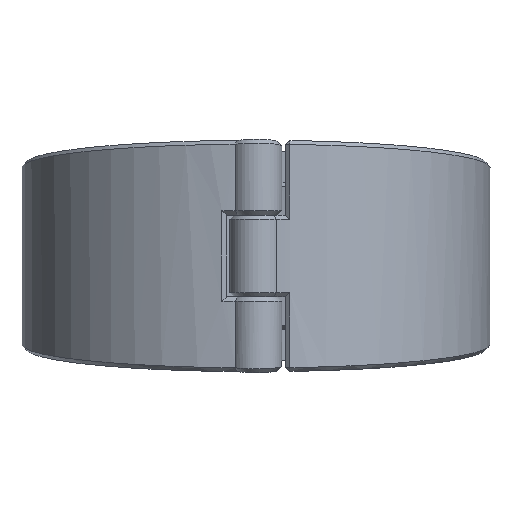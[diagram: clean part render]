
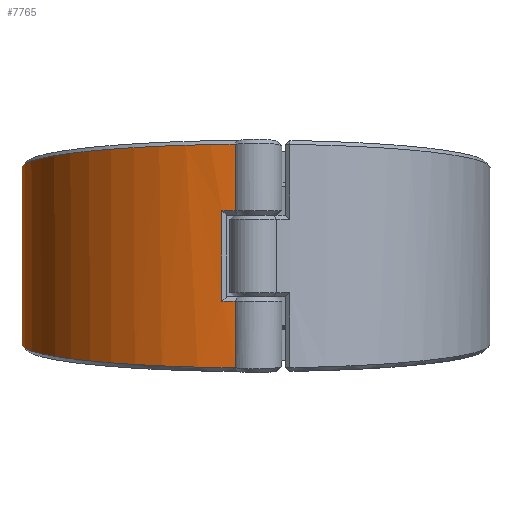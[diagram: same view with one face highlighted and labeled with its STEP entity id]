
A CAD part, front view. The second image highlights one B-rep face of the part: STEP entity #7765.
In plain terms, the highlighted cylindrical face has radius 110 mm (diameter 220 mm), a partial arc.
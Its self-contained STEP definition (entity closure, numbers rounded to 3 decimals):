
#263=CYLINDRICAL_SURFACE('',#8320,110.);
#584=FACE_OUTER_BOUND('',#1104,.T.);
#1104=EDGE_LOOP('',(#5280,#5281,#5282,#5283,#5284,#5285,#5286,#5287,#5288,
#5289,#5290,#5291));
#1644=B_SPLINE_CURVE_WITH_KNOTS('',3,(#11843,#11844,#11845,#11846),
 .UNSPECIFIED.,.F.,.F.,(4,4),(-0.001,0.),.UNSPECIFIED.);
#1645=B_SPLINE_CURVE_WITH_KNOTS('',3,(#11848,#11849,#11850,#11851),
 .UNSPECIFIED.,.F.,.F.,(4,4),(-3.053,-3.053),
 .UNSPECIFIED.);
#1646=B_SPLINE_CURVE_WITH_KNOTS('',3,(#11853,#11854,#11855,#11856,#11857,
#11858,#11859,#11860,#11861,#11862),.UNSPECIFIED.,.F.,.F.,(4,1,1,1,1,1,
1,4),(0.317,0.657,1.057,1.458,
1.859,2.26,2.661,3.053),
 .UNSPECIFIED.);
#1647=B_SPLINE_CURVE_WITH_KNOTS('',3,(#11866,#11867,#11868,#11869,#11870,
#11871,#11872,#11873,#11874,#11875),.UNSPECIFIED.,.F.,.F.,(4,1,1,1,1,1,
1,4),(-3.053,-2.661,-2.26,-1.859,
-1.458,-1.057,-0.657,-0.317),
 .UNSPECIFIED.);
#1648=B_SPLINE_CURVE_WITH_KNOTS('',3,(#11877,#11878,#11879,#11880),
 .UNSPECIFIED.,.F.,.F.,(4,4),(3.053,3.053),
 .UNSPECIFIED.);
#1649=B_SPLINE_CURVE_WITH_KNOTS('',3,(#11882,#11883,#11884,#11885),
 .UNSPECIFIED.,.F.,.F.,(4,4),(-0.354,-0.353),
 .UNSPECIFIED.);
#1921=LINE('',#11777,#2291);
#1927=LINE('',#11841,#2297);
#1928=LINE('',#11864,#2298);
#1929=LINE('',#11886,#2299);
#2291=VECTOR('',#9336,10.);
#2297=VECTOR('',#9382,10.);
#2298=VECTOR('',#9383,10.);
#2299=VECTOR('',#9384,10.);
#2666=CIRCLE('',#8310,110.);
#2669=CIRCLE('',#8315,110.);
#3229=VERTEX_POINT('',#11771);
#3230=VERTEX_POINT('',#11776);
#3236=VERTEX_POINT('',#11797);
#3239=VERTEX_POINT('',#11818);
#3243=VERTEX_POINT('',#11840);
#3244=VERTEX_POINT('',#11842);
#3245=VERTEX_POINT('',#11847);
#3246=VERTEX_POINT('',#11852);
#3247=VERTEX_POINT('',#11863);
#3248=VERTEX_POINT('',#11865);
#3249=VERTEX_POINT('',#11876);
#3250=VERTEX_POINT('',#11881);
#3984=EDGE_CURVE('',#3229,#3230,#1921,.T.);
#3997=EDGE_CURVE('',#3236,#3229,#2666,.T.);
#4002=EDGE_CURVE('',#3230,#3239,#2669,.T.);
#4008=EDGE_CURVE('',#3243,#3236,#1927,.T.);
#4009=EDGE_CURVE('',#3244,#3243,#1644,.T.);
#4010=EDGE_CURVE('',#3244,#3245,#1645,.T.);
#4011=EDGE_CURVE('',#3246,#3245,#1646,.T.);
#4012=EDGE_CURVE('',#3247,#3246,#1928,.T.);
#4013=EDGE_CURVE('',#3248,#3247,#1647,.T.);
#4014=EDGE_CURVE('',#3248,#3249,#1648,.T.);
#4015=EDGE_CURVE('',#3250,#3249,#1649,.T.);
#4016=EDGE_CURVE('',#3239,#3250,#1929,.T.);
#5280=ORIENTED_EDGE('',*,*,#4002,.F.);
#5281=ORIENTED_EDGE('',*,*,#3984,.F.);
#5282=ORIENTED_EDGE('',*,*,#3997,.F.);
#5283=ORIENTED_EDGE('',*,*,#4008,.F.);
#5284=ORIENTED_EDGE('',*,*,#4009,.F.);
#5285=ORIENTED_EDGE('',*,*,#4010,.T.);
#5286=ORIENTED_EDGE('',*,*,#4011,.F.);
#5287=ORIENTED_EDGE('',*,*,#4012,.F.);
#5288=ORIENTED_EDGE('',*,*,#4013,.F.);
#5289=ORIENTED_EDGE('',*,*,#4014,.T.);
#5290=ORIENTED_EDGE('',*,*,#4015,.F.);
#5291=ORIENTED_EDGE('',*,*,#4016,.F.);
#7765=ADVANCED_FACE('',(#584),#263,.T.);
#8310=AXIS2_PLACEMENT_3D('',#11813,#9358,#9359);
#8315=AXIS2_PLACEMENT_3D('',#11827,#9368,#9369);
#8320=AXIS2_PLACEMENT_3D('',#11839,#9380,#9381);
#9336=DIRECTION('',(0.,0.,-1.));
#9358=DIRECTION('center_axis',(0.,0.,-1.));
#9359=DIRECTION('ref_axis',(0.312,-0.95,0.));
#9368=DIRECTION('center_axis',(0.,0.,1.));
#9369=DIRECTION('ref_axis',(0.312,-0.95,0.));
#9380=DIRECTION('center_axis',(0.,0.,1.));
#9381=DIRECTION('ref_axis',(-0.312,0.95,0.));
#9382=DIRECTION('',(0.,0.,-1.));
#9383=DIRECTION('',(0.,0.,1.));
#9384=DIRECTION('',(0.,0.,-1.));
#11771=CARTESIAN_POINT('',(-15.981,-108.833,21.25));
#11776=CARTESIAN_POINT('',(-15.981,-108.833,-21.25));
#11777=CARTESIAN_POINT('',(-15.981,-108.833,0.));
#11797=CARTESIAN_POINT('',(-9.723,-109.569,21.25));
#11813=CARTESIAN_POINT('Origin',(0.,0.,21.25));
#11818=CARTESIAN_POINT('',(-9.723,-109.569,-21.25));
#11827=CARTESIAN_POINT('Origin',(0.,0.,-21.25));
#11839=CARTESIAN_POINT('Origin',(0.,0.,0.));
#11840=CARTESIAN_POINT('',(-9.723,-109.569,52.508));
#11841=CARTESIAN_POINT('',(-9.723,-109.569,0.));
#11842=CARTESIAN_POINT('',(-9.714,-109.57,52.515));
#11843=CARTESIAN_POINT('Ctrl Pts',(-9.714,-109.57,
52.515));
#11844=CARTESIAN_POINT('Ctrl Pts',(-9.717,-109.57,
52.512));
#11845=CARTESIAN_POINT('Ctrl Pts',(-9.72,-109.57,
52.51));
#11846=CARTESIAN_POINT('Ctrl Pts',(-9.723,-109.569,
52.508));
#11847=CARTESIAN_POINT('',(-9.723,-109.569,52.514));
#11848=CARTESIAN_POINT('Ctrl Pts',(-9.714,-109.57,52.515));
#11849=CARTESIAN_POINT('Ctrl Pts',(-9.717,-109.57,
52.514));
#11850=CARTESIAN_POINT('Ctrl Pts',(-9.72,-109.57,
52.514));
#11851=CARTESIAN_POINT('Ctrl Pts',(-9.723,-109.569,52.514));
#11852=CARTESIAN_POINT('',(-34.347,104.5,30.999));
#11853=CARTESIAN_POINT('Ctrl Pts',(-34.347,104.498,30.999));
#11854=CARTESIAN_POINT('Ctrl Pts',(-46.192,100.598,31.39));
#11855=CARTESIAN_POINT('Ctrl Pts',(-70.572,87.689,32.686));
#11856=CARTESIAN_POINT('Ctrl Pts',(-98.524,55.339,35.933));
#11857=CARTESIAN_POINT('Ctrl Pts',(-112.294,12.48,40.238));
#11858=CARTESIAN_POINT('Ctrl Pts',(-108.271,-32.324,
44.741));
#11859=CARTESIAN_POINT('Ctrl Pts',(-87.087,-71.971,
48.73));
#11860=CARTESIAN_POINT('Ctrl Pts',(-52.416,-100.016,
51.552));
#11861=CARTESIAN_POINT('Ctrl Pts',(-24.016,-108.3,
52.387));
#11862=CARTESIAN_POINT('Ctrl Pts',(-9.723,-109.569,
52.514));
#11863=CARTESIAN_POINT('',(-34.347,104.5,-30.999));
#11864=CARTESIAN_POINT('',(-34.347,104.5,0.));
#11865=CARTESIAN_POINT('',(-9.723,-109.569,-52.514));
#11866=CARTESIAN_POINT('Ctrl Pts',(-9.723,-109.569,-52.514));
#11867=CARTESIAN_POINT('Ctrl Pts',(-24.016,-108.3,
-52.387));
#11868=CARTESIAN_POINT('Ctrl Pts',(-52.41,-100.011,
-51.552));
#11869=CARTESIAN_POINT('Ctrl Pts',(-87.096,-71.978,
-48.73));
#11870=CARTESIAN_POINT('Ctrl Pts',(-108.26,-32.32,-44.741));
#11871=CARTESIAN_POINT('Ctrl Pts',(-112.305,12.48,-40.238));
#11872=CARTESIAN_POINT('Ctrl Pts',(-98.518,55.338,-35.933));
#11873=CARTESIAN_POINT('Ctrl Pts',(-70.572,87.688,-32.686));
#11874=CARTESIAN_POINT('Ctrl Pts',(-46.192,100.598,-31.39));
#11875=CARTESIAN_POINT('Ctrl Pts',(-34.347,104.498,-30.999));
#11876=CARTESIAN_POINT('',(-9.714,-109.57,-52.515));
#11877=CARTESIAN_POINT('Ctrl Pts',(-9.723,-109.569,
-52.514));
#11878=CARTESIAN_POINT('Ctrl Pts',(-9.72,-109.57,
-52.514));
#11879=CARTESIAN_POINT('Ctrl Pts',(-9.717,-109.57,
-52.514));
#11880=CARTESIAN_POINT('Ctrl Pts',(-9.714,-109.57,
-52.515));
#11881=CARTESIAN_POINT('',(-9.723,-109.569,-52.508));
#11882=CARTESIAN_POINT('Ctrl Pts',(-9.722,-109.569,
-52.508));
#11883=CARTESIAN_POINT('Ctrl Pts',(-9.719,-109.569,-52.51));
#11884=CARTESIAN_POINT('Ctrl Pts',(-9.717,-109.569,-52.512));
#11885=CARTESIAN_POINT('Ctrl Pts',(-9.714,-109.57,-52.514));
#11886=CARTESIAN_POINT('',(-9.723,-109.569,0.));
